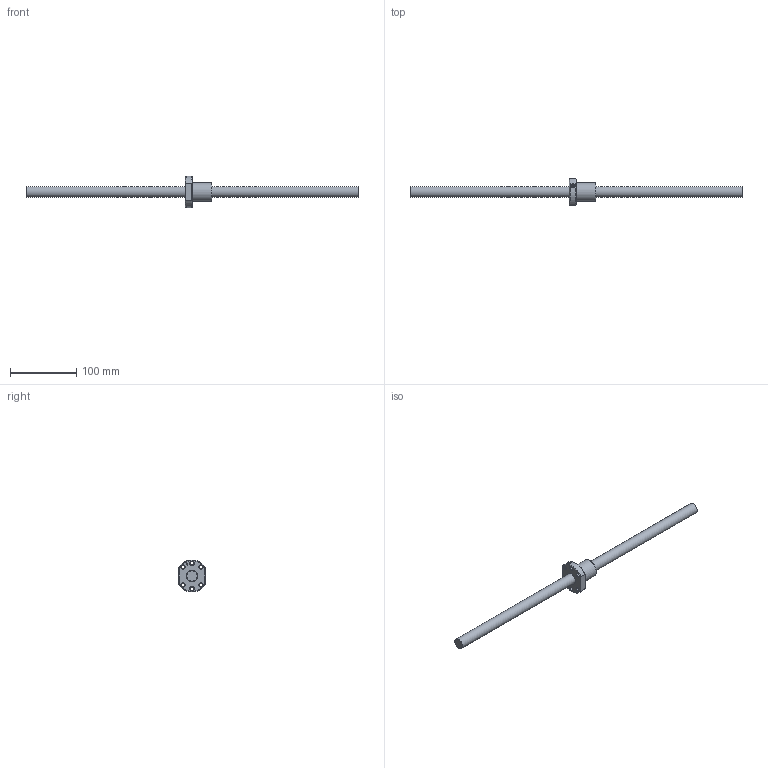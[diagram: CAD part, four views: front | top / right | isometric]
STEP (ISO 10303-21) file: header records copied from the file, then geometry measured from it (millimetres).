
FILE_DESCRIPTION (( 'STEP AP203' ), '1' );
FILE_NAME ('SFU01604D-4.step', '2024-05-14T07:04:33', ( '' ), ( '' ), 'SwSTEP 2.0', 'SolidWorks 2022', '' );
FILE_SCHEMA (( 'CONFIG_CONTROL_DESIGN' ));
Length unit declared in the file: millimetre
Products named in the file (1): SFU01604D-4
Bounding box: 500 x 40 x 48 mm (x, y, z)
Volume: 124190.4 mm3; surface area: 35516.1 mm2
Topology: 2 solids, 2 shells, 55 faces, 142 edges, 92 vertices
Faces by surface type: cylinder 19, cone 13, plane 12, bspline 6, torus 5
Full cylindrical faces by diameter (mm): 4 x1, 5 x6, 5.5 x6, 16 x1, 17.6 x1, 28 x1
Entity records: 3614 total; most frequent: CARTESIAN_POINT 2557, DIRECTION 186, ORIENTED_EDGE 172, EDGE_LOOP 93, EDGE_CURVE 86, AXIS2_PLACEMENT_3D 85, VERTEX_POINT 69, FACE_OUTER_BOUND 62
